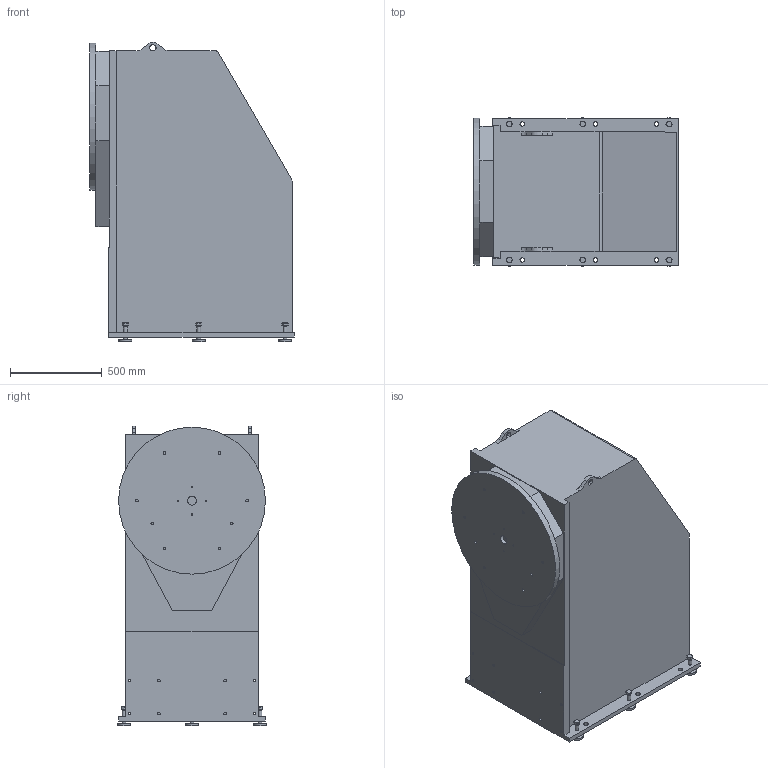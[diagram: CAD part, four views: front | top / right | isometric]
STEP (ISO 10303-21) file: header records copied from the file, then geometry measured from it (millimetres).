
FILE_DESCRIPTION((''),'2;1');
FILE_NAME('S:\Manipulatorer\Produkter\Layout symboler\HSB\114858-101 HSB-5000 SN (STEP).stp','2008-06-17T10:27:31',('Devellkrso'),(''),'Autodesk Inventor 2008','Autodesk Inventor 2008','');
FILE_SCHEMA(('AUTOMOTIVE_DESIGN { 1 0 10303 214 1 1 1 1 }'));
Length unit declared in the file: millimetre
Products named in the file (1): 114858-101 HSB-5000 SN (low-res)
Bounding box: 1114 x 810 x 1629.75 mm (x, y, z)
Volume: 979299752.5 mm3; surface area: 7948502.8 mm2
Topology: 11 solids, 11 shells, 278 faces, 635 edges, 422 vertices
Faces by surface type: plane 127, cylinder 90, bspline 36, cone 25
Full cylindrical faces by diameter (mm): 6.8 x4, 14 x8, 20 x19, 28.19 x6, 50 x1, 70 x7, 130 x1, 800 x1
Entity records: 8010 total; most frequent: CARTESIAN_POINT 1809, DIRECTION 1220, ORIENTED_EDGE 1046, EDGE_CURVE 523, AXIS2_PLACEMENT_3D 502, EDGE_LOOP 458, VERTEX_POINT 397, FACE_OUTER_BOUND 278
